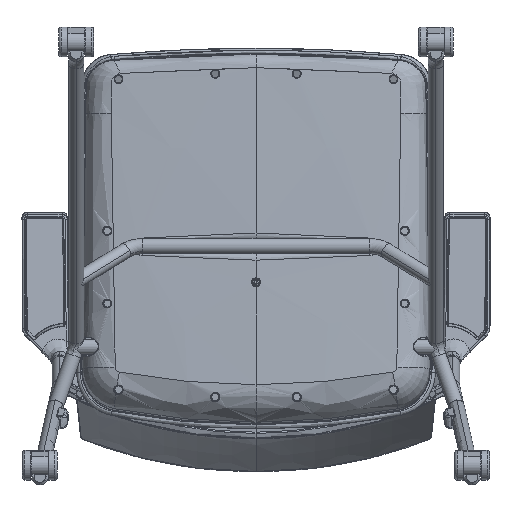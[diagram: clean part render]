
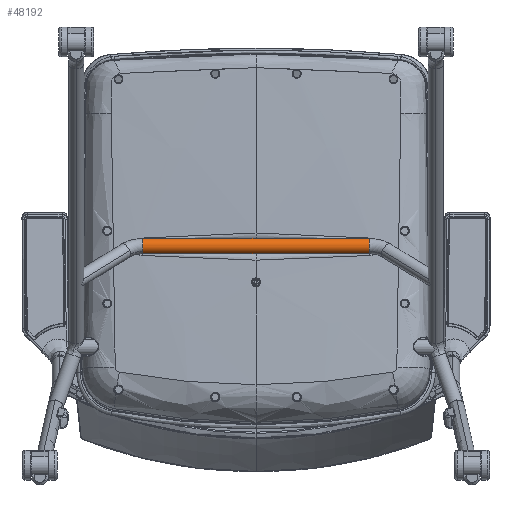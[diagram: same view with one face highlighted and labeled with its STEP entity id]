
A CAD part, front view. The second image highlights one B-rep face of the part: STEP entity #48192.
In plain terms, the highlighted cylindrical face has radius 9.525 mm (diameter 19.05 mm), a partial arc.
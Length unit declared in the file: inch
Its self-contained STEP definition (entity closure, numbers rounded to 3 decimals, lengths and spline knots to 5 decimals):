
#417 = DIRECTION ( 'NONE',  ( 0., 0., -1. ) ) ;
#1912 = VERTEX_POINT ( 'NONE', #58673 ) ;
#3145 = LINE ( 'NONE', #62767, #47307 ) ;
#3777 = CARTESIAN_POINT ( 'NONE',  ( 5.5076, 16.5153, 11.25853 ) ) ;
#4569 = CIRCLE ( 'NONE', #50210, 0.375 ) ;
#6597 = DIRECTION ( 'NONE',  ( 0., 0., 1. ) ) ;
#6838 = CARTESIAN_POINT ( 'NONE',  ( 0., 16.5153, 11.25853 ) ) ;
#9694 = DIRECTION ( 'NONE',  ( 0., 0., -1. ) ) ;
#11065 = CARTESIAN_POINT ( 'NONE',  ( -5.5076, 16.5153, 10.88353 ) ) ;
#12041 = VERTEX_POINT ( 'NONE', #11065 ) ;
#12364 = VECTOR ( 'NONE', #15011, 39.37008 ) ;
#12763 = AXIS2_PLACEMENT_3D ( 'NONE', #6838, #42110, #6597 ) ;
#12798 = VERTEX_POINT ( 'NONE', #48122 ) ;
#12976 = VERTEX_POINT ( 'NONE', #27557 ) ;
#15011 = DIRECTION ( 'NONE',  ( 1., 0., 0. ) ) ;
#16954 = LINE ( 'NONE', #50196, #12364 ) ;
#21278 = ORIENTED_EDGE ( 'NONE', *, *, #65471, .T. ) ;
#23997 = ORIENTED_EDGE ( 'NONE', *, *, #56405, .T. ) ;
#27557 = CARTESIAN_POINT ( 'NONE',  ( -5.5076, 16.5153, 11.63353 ) ) ;
#27610 = DIRECTION ( 'NONE',  ( 1., 0., 0. ) ) ;
#28322 = AXIS2_PLACEMENT_3D ( 'NONE', #70925, #35705, #417 ) ;
#29445 = ORIENTED_EDGE ( 'NONE', *, *, #38545, .T. ) ;
#30275 = DIRECTION ( 'NONE',  ( 1., 0., 0. ) ) ;
#30470 = ORIENTED_EDGE ( 'NONE', *, *, #35640, .F. ) ;
#30859 = CIRCLE ( 'NONE', #28322, 0.375 ) ;
#31908 = EDGE_CURVE ( 'NONE', #12976, #64900, #16954, .T. ) ;
#32330 = DIRECTION ( 'NONE',  ( 1., 0., 0. ) ) ;
#35640 = EDGE_CURVE ( 'NONE', #1912, #55701, #70061, .T. ) ;
#35705 = DIRECTION ( 'NONE',  ( 1., 0., 0. ) ) ;
#37201 = CIRCLE ( 'NONE', #68307, 0.375 ) ;
#38545 = EDGE_CURVE ( 'NONE', #12976, #12798, #4569, .T. ) ;
#42110 = DIRECTION ( 'NONE',  ( 1., 0., 0. ) ) ;
#44942 = DIRECTION ( 'NONE',  ( 1., 0., 0. ) ) ;
#45095 = CARTESIAN_POINT ( 'NONE',  ( 5.5076, 16.5153, 10.88353 ) ) ;
#46262 = EDGE_LOOP ( 'NONE', ( #29445, #21278, #23997, #30470, #55027, #74575 ) ) ;
#47307 = VECTOR ( 'NONE', #27610, 39.37008 ) ;
#48122 = CARTESIAN_POINT ( 'NONE',  ( -5.5076, 16.23376, 11.01082 ) ) ;
#48192 = ADVANCED_FACE ( 'NONE', ( #54240 ), #57933, .T. ) ;
#50196 = CARTESIAN_POINT ( 'NONE',  ( 0., 16.5153, 11.63353 ) ) ;
#50210 = AXIS2_PLACEMENT_3D ( 'NONE', #65474, #30275, #71417 ) ;
#54240 = FACE_OUTER_BOUND ( 'NONE', #46262, .T. ) ;
#55027 = ORIENTED_EDGE ( 'NONE', *, *, #66503, .F. ) ;
#55701 = VERTEX_POINT ( 'NONE', #45095 ) ;
#56405 = EDGE_CURVE ( 'NONE', #12041, #55701, #3145, .T. ) ;
#57933 = CYLINDRICAL_SURFACE ( 'NONE', #12763, 0.375 ) ;
#58673 = CARTESIAN_POINT ( 'NONE',  ( 5.5076, 16.23376, 11.01082 ) ) ;
#62767 = CARTESIAN_POINT ( 'NONE',  ( 0., 16.5153, 10.88353 ) ) ;
#64562 = CARTESIAN_POINT ( 'NONE',  ( 5.5076, 16.5153, 11.63353 ) ) ;
#64900 = VERTEX_POINT ( 'NONE', #64562 ) ;
#65471 = EDGE_CURVE ( 'NONE', #12798, #12041, #30859, .T. ) ;
#65474 = CARTESIAN_POINT ( 'NONE',  ( -5.5076, 16.5153, 11.25853 ) ) ;
#66503 = EDGE_CURVE ( 'NONE', #64900, #1912, #37201, .T. ) ;
#67526 = CARTESIAN_POINT ( 'NONE',  ( 5.5076, 16.5153, 11.25853 ) ) ;
#68307 = AXIS2_PLACEMENT_3D ( 'NONE', #67526, #32330, #73471 ) ;
#70061 = CIRCLE ( 'NONE', #76310, 0.375 ) ;
#70925 = CARTESIAN_POINT ( 'NONE',  ( -5.5076, 16.5153, 11.25853 ) ) ;
#71417 = DIRECTION ( 'NONE',  ( 0., 0., -1. ) ) ;
#73471 = DIRECTION ( 'NONE',  ( 0., 0., -1. ) ) ;
#74575 = ORIENTED_EDGE ( 'NONE', *, *, #31908, .F. ) ;
#76310 = AXIS2_PLACEMENT_3D ( 'NONE', #3777, #44942, #9694 ) ;
